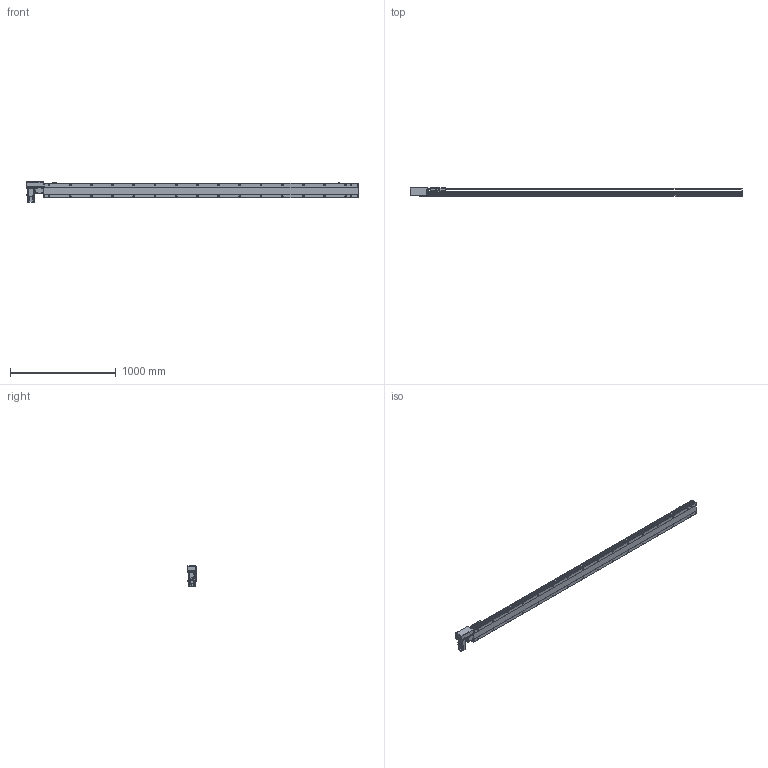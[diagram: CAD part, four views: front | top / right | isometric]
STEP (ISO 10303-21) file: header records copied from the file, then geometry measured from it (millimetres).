
FILE_DESCRIPTION( ( 'STEP AP214' ), '1' );
FILE_NAME( 'x:/temp/worker_27/temp/exporttempdir_6708_387_nfZ3Y/format_0/PBS140-P40-S2700-R-T40-C1-N(0).stp', '2022-06-06T01:31:42', ( 'License CC BY-ND 4.0' ), ( 'CADENAS' ), ' ', 'PARTsolutions', ' ' );
FILE_SCHEMA( ( 'AUTOMOTIVE_DESIGN { 1 0 10303 214 1 1 1 1 }' ) );
Length unit declared in the file: millimetre
Products named in the file (7): PBS140-P40-S2700-R-T40-C1-N(0); _PBS140-S2700()_body; _PBS140T-R_motors; _T40-p1; _PBS140_sliser; _PBS140_plant; _PBS140_sensor
Assembly tree (8 placements, depth 2):
  PBS140-P40-S2700-R-T40-C1-N(0)
    _PBS140-S2700()_body
    _PBS140T-R_motors
    _T40-p1
    _PBS140_sliser
    _PBS140_plant
    _PBS140_sensor  x3
Bounding box: 3133 x 80.5 x 189.7 mm (x, y, z)
Volume: 13637206.8 mm3; surface area: 2319419.7 mm2
Topology: 8 solids, 8 shells, 1203 faces, 3156 edges, 2061 vertices
Faces by surface type: plane 740, cylinder 395, cone 58, sphere 8, torus 2
Full cylindrical faces by diameter (mm): 3.242 x4, 4 x2, 4.134 x4, 4.4 x8, 4.5 x2, 4.8 x4, 4.917 x40, 5.5 x7, 6 x2, 7 x34, 7.5 x8, 8 x12, 8.5 x4, 10.5 x32, 14 x1, 30 x2, 50 x2
Entity records: 44425 total; most frequent: CARTESIAN_POINT 7595, DIRECTION 5757, ORIENTED_EDGE 5392, EDGE_CURVE 2696, AXIS2_PLACEMENT_3D 2047, VERTEX_POINT 1893, LINE 1663, VECTOR 1663
